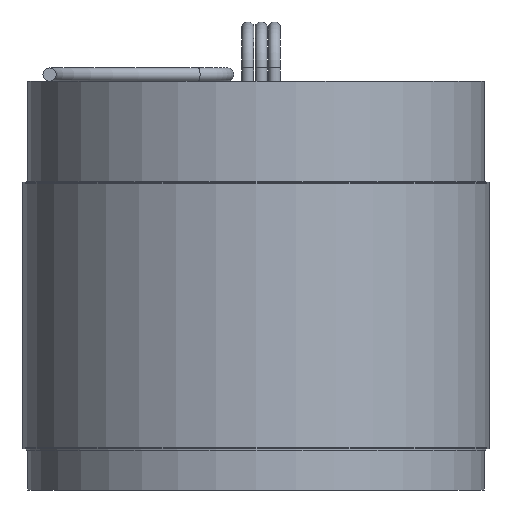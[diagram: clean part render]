
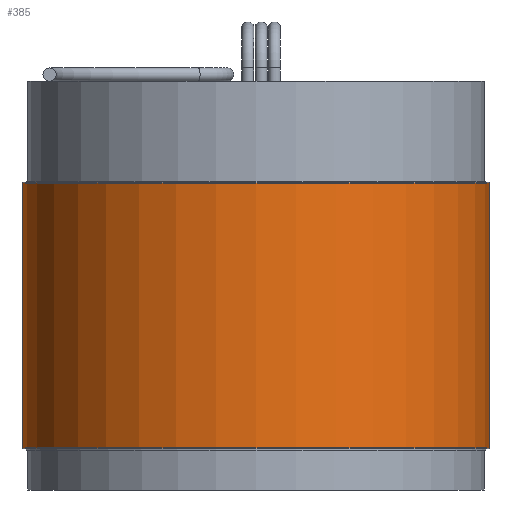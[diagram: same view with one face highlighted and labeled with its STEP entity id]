
A CAD part, front view. The second image highlights one B-rep face of the part: STEP entity #385.
In plain terms, the highlighted cylindrical face has radius 44.45 mm (diameter 88.9 mm), a full revolution.
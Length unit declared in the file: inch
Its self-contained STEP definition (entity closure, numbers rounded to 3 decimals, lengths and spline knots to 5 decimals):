
#177 = VERTEX_POINT ( 'NONE', #239 ) ;
#236 = DIRECTION ( 'NONE',  ( 1., 0., 0. ) ) ;
#239 = CARTESIAN_POINT ( 'NONE',  ( 1.75, 0., -0.99213 ) ) ;
#254 = DIRECTION ( 'NONE',  ( 0., 0., 1. ) ) ;
#277 = ORIENTED_EDGE ( 'NONE', *, *, #301, .F. ) ;
#301 = EDGE_CURVE ( 'NONE', #750, #750, #1167, .T. ) ;
#319 = DIRECTION ( 'NONE',  ( 0., 0., 1. ) ) ;
#358 = DIRECTION ( 'NONE',  ( 0., 0., 1. ) ) ;
#385 = ADVANCED_FACE ( 'NONE', ( #836, #804 ), #404, .T. ) ;
#404 = CYLINDRICAL_SURFACE ( 'NONE', #865, 1.75 ) ;
#477 = DIRECTION ( 'NONE',  ( 1., 0., 0. ) ) ;
#496 = ORIENTED_EDGE ( 'NONE', *, *, #677, .T. ) ;
#528 = CARTESIAN_POINT ( 'NONE',  ( 0., 0., -0.99213 ) ) ;
#545 = EDGE_LOOP ( 'NONE', ( #496 ) ) ;
#633 = AXIS2_PLACEMENT_3D ( 'NONE', #898, #358, #236 ) ;
#657 = EDGE_LOOP ( 'NONE', ( #277 ) ) ;
#677 = EDGE_CURVE ( 'NONE', #177, #177, #1219, .T. ) ;
#750 = VERTEX_POINT ( 'NONE', #1209 ) ;
#804 = FACE_OUTER_BOUND ( 'NONE', #545, .T. ) ;
#810 = AXIS2_PLACEMENT_3D ( 'NONE', #528, #319, #1317 ) ;
#836 = FACE_OUTER_BOUND ( 'NONE', #657, .T. ) ;
#865 = AXIS2_PLACEMENT_3D ( 'NONE', #1028, #254, #477 ) ;
#898 = CARTESIAN_POINT ( 'NONE',  ( 0., 0., 0.99213 ) ) ;
#1028 = CARTESIAN_POINT ( 'NONE',  ( 0., 0., -1.01 ) ) ;
#1167 = CIRCLE ( 'NONE', #633, 1.75 ) ;
#1209 = CARTESIAN_POINT ( 'NONE',  ( 1.75, 0., 0.99213 ) ) ;
#1219 = CIRCLE ( 'NONE', #810, 1.75 ) ;
#1317 = DIRECTION ( 'NONE',  ( 1., 0., 0. ) ) ;
